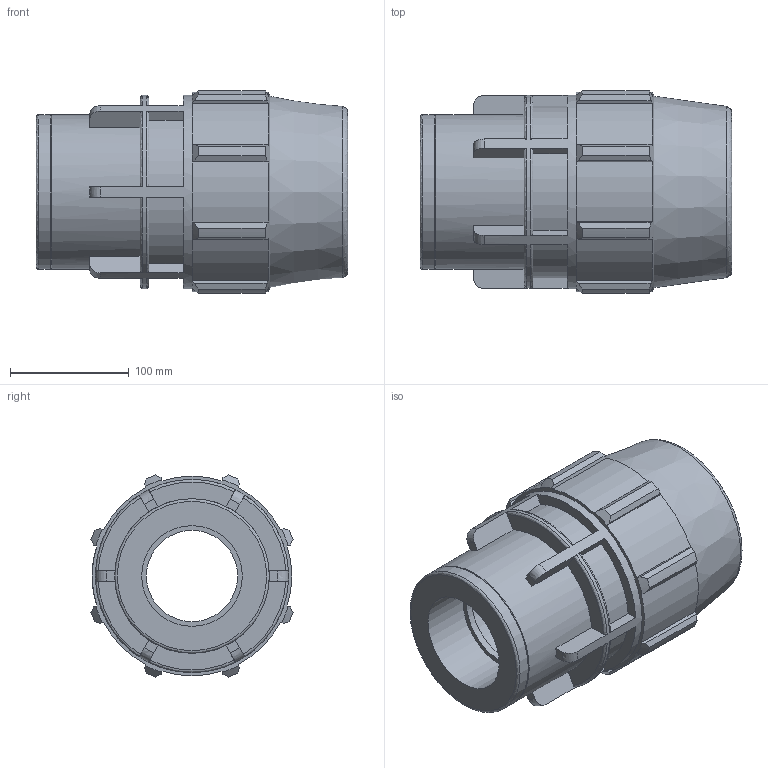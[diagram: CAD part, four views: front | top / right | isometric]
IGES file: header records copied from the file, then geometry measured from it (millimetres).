
Global section: file name: 870300110030_180300110030_840306110030.ipt; native system: Autodesk Inventor 2015; preprocessor: unknown; author: KIM; date: 20180325.201200; units: millimetre
Bounding box: 263 x 170.31 x 170.31 mm (x, y, z)
Volume: 2359010.2 mm3; surface area: 264784.5 mm2
Topology: 1 solids, 1 shells, 148 faces, 413 edges, 277 vertices
Faces by surface type: plane 86, revolution 25, cylinder 25, cone 12
Full cylindrical faces by diameter (mm): 130.32 x2, 162.9 x1
